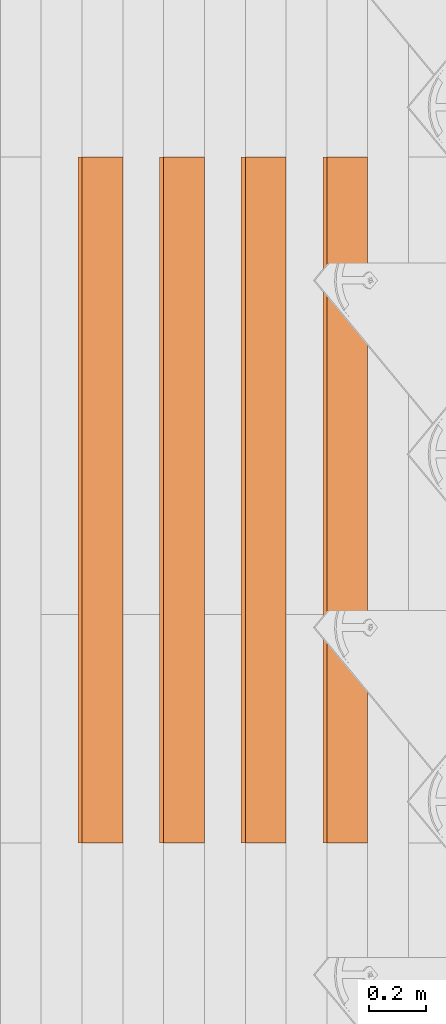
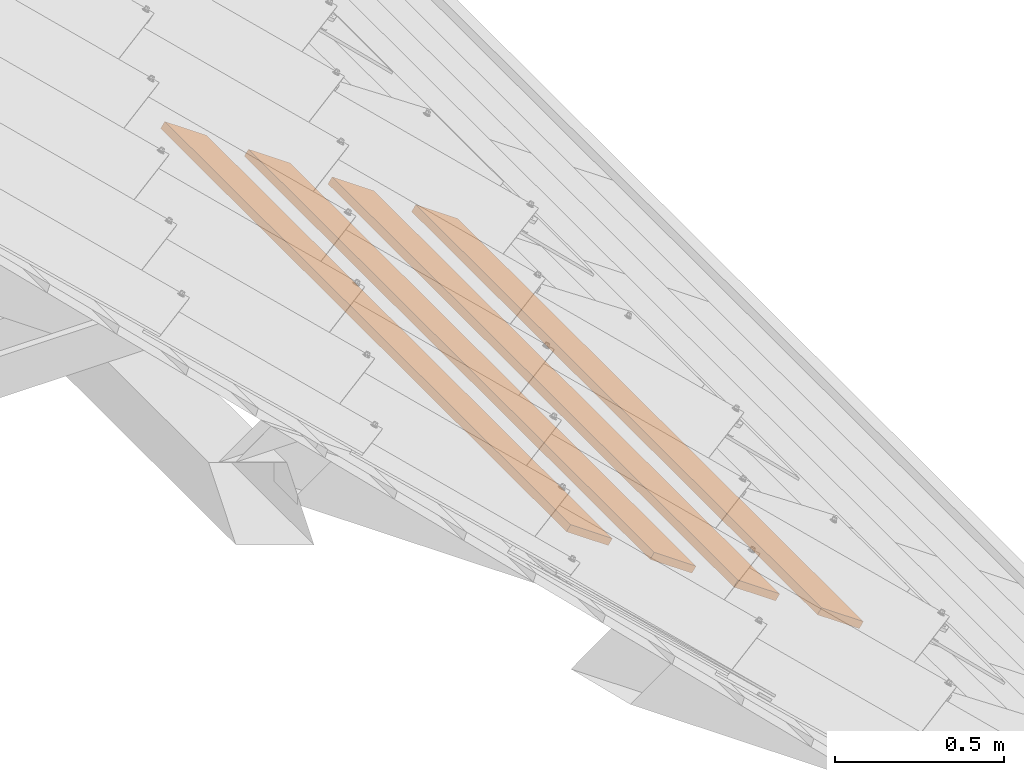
# One storey, part 60 of 133: 4 proxies, 1 element without a shape of its own.
"""IFC2X3 building model written with IfcOpenShell, lengths in millimetres."""

import ifcopenshell
import ifcopenshell.guid

model = None  # the IFC model being written
_history = None  # IfcOwnerHistory: only IFC2X3 demands one
_inside = {}  # id of a spatial element -> (the spatial element, [elements in it])
_under = {}  # id of a project, library or spatial element -> (it, [spatial elements below it])
_declared = {}  # id of a project -> (the project, [libraries it declares])
_typed = {}  # id of a type object -> (the type object, [elements of that type])
_made_of = {}  # id of a material, layer set ... -> (it, [elements and type objects made of it])


def new_model(schema):
    """Start an empty IFC model of exactly this schema.

    Asked for "IFC4X3", IfcOpenShell would pick the latest addendum, in which some entities
    have other attributes; the version numbers below select the first issue.
    IFC2X3 requires an IfcOwnerHistory on every rooted entity: one is made here for all.
    """
    global model, _history
    if schema == "IFC4X3":
        model = ifcopenshell.file(schema_version=(4, 3, 0, 0))
    else:
        model = ifcopenshell.file(schema=schema)
    _inside.clear()
    _under.clear()
    _declared.clear()
    _typed.clear()
    _made_of.clear()
    _history = None
    if model.schema == "IFC2X3":
        org = make("IfcOrganization", Name="unknown")
        user = make(
            "IfcPersonAndOrganization",
            ThePerson=make("IfcPerson", FamilyName="unknown"),
            TheOrganization=org,
        )
        app = make(
            "IfcApplication",
            ApplicationDeveloper=org,
            Version="unknown",
            ApplicationFullName="unknown",
            ApplicationIdentifier="unknown",
        )
        _history = make(
            "IfcOwnerHistory",
            OwningUser=user,
            OwningApplication=app,
            ChangeAction="ADDED",
            CreationDate=0,
        )
    return model


def make(cls, **values):
    """One entity of the class cls with the attributes given. An attribute that is None is left unset."""
    return model.create_entity(
        cls, **{name: value for name, value in values.items() if value is not None}
    )


def entity(cls, *values):
    """Any entity or typed value of the class cls, its attributes in the order of the schema. None: left unset."""
    e = model.create_entity(cls)
    for i, value in enumerate(values):
        if value is not None:
            e[i] = value
    return e


def rooted(cls, **values):
    """An entity with a GlobalId (a new one), such as an element, a storey or a relation."""
    return make(cls, GlobalId=ifcopenshell.guid.new(), OwnerHistory=_history, **values)


def si_unit(unit_type, name, prefix=None):
    """IfcSIUnit, for example si_unit("LENGTHUNIT", "METRE", prefix="MILLI")."""
    return make("IfcSIUnit", UnitType=unit_type, Prefix=prefix, Name=name)


def converted_unit(unit_type, name, factor, base, dimensions=None, offset=None):
    """IfcConversionBasedUnit, such as the inch: factor (a typed value) times the base unit."""
    return make(
        "IfcConversionBasedUnit"
        if offset is None
        else "IfcConversionBasedUnitWithOffset",
        ConversionOffset=offset,
        Dimensions=None
        if dimensions is None
        else entity("IfcDimensionalExponents", *dimensions),
        UnitType=unit_type,
        Name=name,
        ConversionFactor=make(
            "IfcMeasureWithUnit", ValueComponent=factor, UnitComponent=base
        ),
    )


def derived_unit(unit_type, elements):
    """IfcDerivedUnit: a product of units, each with its exponent."""
    return make(
        "IfcDerivedUnit",
        Elements=[
            make("IfcDerivedUnitElement", Unit=unit, Exponent=power)
            for unit, power in elements
        ],
        UnitType=unit_type,
    )


def assignment(units):
    """IfcUnitAssignment: the units of a project."""
    return None if units is None else make("IfcUnitAssignment", Units=units)


def point(xyz):
    """IfcCartesianPoint."""
    return None if xyz is None else make("IfcCartesianPoint", Coordinates=xyz)


def direction(xyz):
    """IfcDirection."""
    return None if xyz is None else make("IfcDirection", DirectionRatios=xyz)


def frame(location, z_axis=None, x_axis=None):
    """IfcAxis2Placement3D, a coordinate frame: its origin and axes. An axis left out is left unset."""
    return make(
        "IfcAxis2Placement3D",
        Location=point(location),
        Axis=direction(z_axis),
        RefDirection=direction(x_axis),
    )


def frame_2d(location, x_axis=None):
    """IfcAxis2Placement2D, a coordinate frame in the plane: its origin and x axis."""
    return make(
        "IfcAxis2Placement2D", Location=point(location), RefDirection=direction(x_axis)
    )


def origin():
    """The frame at (0, 0, 0) with its axes left unset."""
    return frame((0.0, 0.0, 0.0))


def place(relative_to, where):
    """IfcLocalPlacement: puts the frame where relative to a parent placement (None: the world)."""
    return make(
        "IfcLocalPlacement", PlacementRelTo=relative_to, RelativePlacement=where
    )


def context(
    kind, dimensions, precision=None, world=None, true_north=None, identifier=None
):
    """IfcGeometricRepresentationContext, for example the 3D "Model" context."""
    return make(
        "IfcGeometricRepresentationContext",
        ContextIdentifier=identifier,
        ContextType=kind,
        CoordinateSpaceDimension=dimensions,
        Precision=precision,
        WorldCoordinateSystem=world,
        TrueNorth=true_north,
    )


def subcontext(parent, identifier, kind, view, scale=None):
    """IfcGeometricRepresentationSubContext, for example "Body" below "Model"."""
    return make(
        "IfcGeometricRepresentationSubContext",
        ContextIdentifier=identifier,
        ContextType=kind,
        ParentContext=parent,
        TargetScale=scale,
        TargetView=view,
    )


def project(units=None, contexts=None):
    """IfcProject with its units and contexts."""
    return rooted(
        "IfcProject",
        Name="project",
        RepresentationContexts=contexts,
        UnitsInContext=assignment(units),
    )


def spatial(cls, under=None, at=None, **own):
    """A site, building, storey or space (cls), placed at a placement, below another one or the project."""
    s = rooted(cls, ObjectPlacement=at, **own)
    if under is not None:
        _under.setdefault(under.id(), (under, []))[1].append(s)
    return s


def profile(cls, at=None, kind="AREA", **sizes):
    """A parametric profile (cls). Its sizes go by their IFC names, for example OverallWidth=200.0."""
    return make(cls, ProfileType=kind, Position=at, **sizes)


def rectangle(**sizes):
    """IfcRectangleProfileDef."""
    return profile("IfcRectangleProfileDef", **sizes)


def extrude(swept, where, along, depth):
    """IfcExtrudedAreaSolid: the profile swept, set in the frame where, extruded along a direction by depth."""
    return make(
        "IfcExtrudedAreaSolid",
        SweptArea=swept,
        Position=where,
        ExtrudedDirection=direction(along),
        Depth=depth,
    )


def shape(context_of_items, identifier, shape_type, items):
    """IfcShapeRepresentation: the items that make up one representation, for example the "Body"."""
    return make(
        "IfcShapeRepresentation",
        ContextOfItems=context_of_items,
        RepresentationIdentifier=identifier,
        RepresentationType=shape_type,
        Items=items,
    )


def source(mapping_origin, context_of_items, identifier, shape_type, items):
    """IfcRepresentationMap: a shape defined once, which mapped items show again and again."""
    return make(
        "IfcRepresentationMap",
        MappingOrigin=mapping_origin,
        MappedRepresentation=shape(context_of_items, identifier, shape_type, items),
    )


def transform(
    local_origin,
    x_axis=None,
    y_axis=None,
    z_axis=None,
    scale=None,
    scale2=None,
    scale3=None,
    uniform=True,
):
    """IfcCartesianTransformationOperator3D, or its non-uniform kind. x_axis, y_axis, z_axis: its Axis1, 2, 3."""
    if uniform:
        return make(
            "IfcCartesianTransformationOperator3D",
            Axis1=direction(x_axis),
            Axis2=direction(y_axis),
            LocalOrigin=point(local_origin),
            Scale=scale,
            Axis3=direction(z_axis),
        )
    return make(
        "IfcCartesianTransformationOperator3DnonUniform",
        Axis1=direction(x_axis),
        Axis2=direction(y_axis),
        LocalOrigin=point(local_origin),
        Scale=scale,
        Axis3=direction(z_axis),
        Scale2=scale2,
        Scale3=scale3,
    )


def mapped(mapping_source, mapping_target):
    """IfcMappedItem: shows the shape of a source again, moved by a transform."""
    return make(
        "IfcMappedItem", MappingSource=mapping_source, MappingTarget=mapping_target
    )


def material(Name=None, Category=None):
    """IfcMaterial."""
    return make("IfcMaterial", Name=Name, Category=Category)


def made_of(thing, what):
    """Note that an element or type object is made of a material, layer set ...; save() writes the relation."""
    if what is not None:
        _made_of.setdefault(what.id(), (what, []))[1].append(thing)
    return thing


def type_object(cls, material=None, **own):
    """A type object (cls), such as IfcWallType, which elements share."""
    return made_of(rooted(cls, **own), material)


def type_shapes(of_type, sources):
    """Give a type object the sources (RepresentationMaps) that its elements show as mapped items."""
    of_type.RepresentationMaps = sources


def element(
    cls,
    number,
    at=None,
    inside=None,
    cuts=None,
    type_object=None,
    material=None,
    context=None,
    identifier="Body",
    shape_type=None,
    held_by="IfcProductDefinitionShape",
    body=None,
    shapes=None,
    **own,
):
    """One element of the class cls, such as IfcWall. Its Tag is "e" and its number.

    at: its placement. inside: the storey or other place that contains it. cuts: it is an
    opening in that element (IfcRelVoidsElement). A single representation is given by context,
    identifier, shape_type and body (its items); several are given by shapes. held_by: the class
    of the entity that holds the representations. save() writes the other relations.
    """
    e = rooted(cls, Tag="e%d" % number, ObjectPlacement=at, **own)
    if body is not None:
        shapes = [shape(context, identifier, shape_type, body)]
    if shapes is not None:
        e.Representation = make(held_by, Representations=shapes)
    if inside is not None:
        _inside.setdefault(inside.id(), (inside, []))[1].append(e)
    if cuts is not None:
        rooted(
            "IfcRelVoidsElement", RelatingBuildingElement=cuts, RelatedOpeningElement=e
        )
    if type_object is not None:
        _typed.setdefault(type_object.id(), (type_object, []))[1].append(e)
    return made_of(e, material)


def aggregate(whole, parts):
    """IfcRelAggregates: a whole, such as a stair, and the parts it consists of."""
    return rooted("IfcRelAggregates", RelatingObject=whole, RelatedObjects=parts)


def save(model, path):
    """Write the relations noted so far, then the file.

    IfcRelAggregates (storeys below a building ...), IfcRelContainedInSpatialStructure (elements
    in a storey), IfcRelDefinesByType, IfcRelAssociatesMaterial and IfcRelDeclares: one each for
    every whole, place, type object, material and project.
    """
    for whole, parts in _under.values():
        aggregate(whole, parts)
    for where, things in _inside.values():
        rooted(
            "IfcRelContainedInSpatialStructure",
            RelatedElements=things,
            RelatingStructure=where,
        )
    for kind, things in _typed.values():
        rooted("IfcRelDefinesByType", RelatedObjects=things, RelatingType=kind)
    for what, things in _made_of.values():
        rooted("IfcRelAssociatesMaterial", RelatedObjects=things, RelatingMaterial=what)
    for by, libraries in _declared.values():
        rooted("IfcRelDeclares", RelatingContext=by, RelatedDefinitions=libraries)
    model.write(path)


model = new_model("IFC2X3")

# Units and contexts
model_context = context("Model", 3, precision=0.01, world=origin(), true_north=direction((6.12303176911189e-17, 1.0)))
body_context = subcontext(model_context, "Body", "Model", "MODEL_VIEW")
ifc_project = project(units=[si_unit("LENGTHUNIT", "METRE", prefix="MILLI"), si_unit("AREAUNIT", "SQUARE_METRE"), si_unit("VOLUMEUNIT", "CUBIC_METRE"), converted_unit("PLANEANGLEUNIT", "DEGREE", entity("IfcRatioMeasure", 0.0174532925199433), si_unit("PLANEANGLEUNIT", "RADIAN"), dimensions=[0, 0, 0, 0, 0, 0, 0]), si_unit("MASSUNIT", "GRAM", prefix="KILO"), derived_unit("MASSDENSITYUNIT", [(si_unit("MASSUNIT", "GRAM", prefix="KILO"), 1), (si_unit("LENGTHUNIT", "METRE"), -3)]), si_unit("TIMEUNIT", "SECOND"), si_unit("FREQUENCYUNIT", "HERTZ"), si_unit("THERMODYNAMICTEMPERATUREUNIT", "DEGREE_CELSIUS"), derived_unit("THERMALTRANSMITTANCEUNIT", [(si_unit("MASSUNIT", "GRAM", prefix="KILO"), 1), (si_unit("THERMODYNAMICTEMPERATUREUNIT", "KELVIN"), -1), (si_unit("TIMEUNIT", "SECOND"), -3)]), derived_unit("VOLUMETRICFLOWRATEUNIT", [(si_unit("LENGTHUNIT", "METRE"), 3), (si_unit("TIMEUNIT", "SECOND"), -1)]), si_unit("ELECTRICCURRENTUNIT", "AMPERE"), si_unit("ELECTRICVOLTAGEUNIT", "VOLT"), si_unit("POWERUNIT", "WATT"), si_unit("FORCEUNIT", "NEWTON", prefix="KILO"), si_unit("ILLUMINANCEUNIT", "LUX"), si_unit("LUMINOUSFLUXUNIT", "LUMEN"), si_unit("LUMINOUSINTENSITYUNIT", "CANDELA"), derived_unit("USERDEFINED", [(si_unit("MASSUNIT", "GRAM", prefix="KILO"), -1), (si_unit("LENGTHUNIT", "METRE"), -2), (si_unit("TIMEUNIT", "SECOND"), 3), (si_unit("LUMINOUSFLUXUNIT", "LUMEN"), 1)]), derived_unit("LINEARVELOCITYUNIT", [(si_unit("LENGTHUNIT", "METRE"), 1), (si_unit("TIMEUNIT", "SECOND"), -1)]), si_unit("PRESSUREUNIT", "PASCAL"), derived_unit("USERDEFINED", [(si_unit("LENGTHUNIT", "METRE"), -2), (si_unit("MASSUNIT", "GRAM", prefix="KILO"), 1), (si_unit("TIMEUNIT", "SECOND"), -2)])], contexts=[model_context])

# Site, building, storey
site_placement = place(None, origin())
site = spatial("IfcSite", under=ifc_project, at=site_placement, Name="Default", CompositionType="ELEMENT")
building_placement = place(site_placement, origin())
building = spatial("IfcBuilding", under=site, at=building_placement, CompositionType="ELEMENT")
storey_placement = place(building_placement, origin())
storey = spatial("IfcBuildingStorey", under=building, at=storey_placement, Name="Level 1", CompositionType="ELEMENT", Elevation=0.0)

# Assembly, proxies
assembly_placement = place(storey_placement, origin())
assembly = element("IfcElementAssembly", 1, at=assembly_placement, inside=storey, Name="Structural Framing Assembly:Roof Construction Assembly", ObjectType="Structural Framing Assembly:Roof Construction Assembly", AssemblyPlace="NOTDEFINED", PredefinedType="USERDEFINED")
ifc_material = material(Name="Wood - Generic - Wood For Showcase")
building_element_proxy_type_1 = type_object("IfcBuildingElementProxyType", Name="Structural Framing 15", PredefinedType="NOTDEFINED", material=ifc_material)
shared_shape_1 = source(origin(), body_context, "Body", "SweptSolid", [
    extrude(rectangle(XDim=24.9999999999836, YDim=174.344679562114, at=frame_2d((2.22044604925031e-13, -1.63424829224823e-13), x_axis=(1.0, 0.0))), frame((1285.35601305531, 1595.55080214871, 2760.23940055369), z_axis=(0.0, 1.0, 0.0), x_axis=(0.573576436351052, 0.0, 0.819152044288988)), (0.0, 0.0, 1.0), 2400.0),
])
type_shapes(building_element_proxy_type_1, [shared_shape_1])
proxy_1_placement = place(assembly_placement, frame((1856.59240876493, -3340.0, -1300.0)))
proxy_1 = element("IfcBuildingElementProxy", 2, at=proxy_1_placement, type_object=building_element_proxy_type_1, material=ifc_material, Name="Structural Framing 221:Structural Framing 15", ObjectType="Structural Framing 221:Structural Framing 15", context=body_context, shape_type="MappedRepresentation", body=[
    mapped(shared_shape_1, transform((0.0, 0.0, 0.0), scale=1.0)),
])
building_element_proxy_type_2 = type_object("IfcBuildingElementProxyType", Name="Structural Framing 15", PredefinedType="NOTDEFINED", material=ifc_material)
shared_shape_2 = source(origin(), body_context, "Body", "SweptSolid", [
    extrude(rectangle(XDim=24.9999999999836, YDim=174.344679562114, at=frame_2d((2.22044604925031e-13, -1.63424829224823e-13), x_axis=(1.0, 0.0))), frame((1285.35601305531, 1595.55080214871, 2760.23940055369), z_axis=(0.0, 1.0, 0.0), x_axis=(0.573576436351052, 0.0, 0.819152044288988)), (0.0, 0.0, 1.0), 2400.0),
])
type_shapes(building_element_proxy_type_2, [shared_shape_2])
proxy_2_placement = place(assembly_placement, frame((2142.22201011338, -3340.0, -1500.0)))
proxy_2 = element("IfcBuildingElementProxy", 3, at=proxy_2_placement, type_object=building_element_proxy_type_2, material=ifc_material, Name="Structural Framing 231:Structural Framing 15", ObjectType="Structural Framing 231:Structural Framing 15", context=body_context, shape_type="MappedRepresentation", body=[
    mapped(shared_shape_2, transform((0.0, 0.0, 0.0), scale=1.0)),
])
building_element_proxy_type_3 = type_object("IfcBuildingElementProxyType", Name="Structural Framing 15", PredefinedType="NOTDEFINED", material=ifc_material)
shared_shape_3 = source(origin(), body_context, "Body", "SweptSolid", [
    extrude(rectangle(XDim=24.9999999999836, YDim=174.344679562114, at=frame_2d((2.22044604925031e-13, -1.63424829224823e-13), x_axis=(1.0, 0.0))), frame((1285.35601305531, 1595.55080214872, 2760.23940055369), z_axis=(0.0, 1.0, 0.0), x_axis=(0.573576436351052, 0.0, 0.819152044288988)), (0.0, 0.0, 1.0), 2400.0),
])
type_shapes(building_element_proxy_type_3, [shared_shape_3])
proxy_3_placement = place(assembly_placement, frame((2427.85161146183, -3340.0, -1700.0)))
proxy_3 = element("IfcBuildingElementProxy", 4, at=proxy_3_placement, type_object=building_element_proxy_type_3, material=ifc_material, Name="Structural Framing 241:Structural Framing 15", ObjectType="Structural Framing 241:Structural Framing 15", context=body_context, shape_type="MappedRepresentation", body=[
    mapped(shared_shape_3, transform((0.0, 0.0, 0.0), scale=1.0)),
])
building_element_proxy_type_4 = type_object("IfcBuildingElementProxyType", Name="Structural Framing 15", PredefinedType="NOTDEFINED", material=ifc_material)
shared_shape_4 = source(origin(), body_context, "Body", "SweptSolid", [
    extrude(rectangle(XDim=24.9999999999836, YDim=174.344679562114, at=frame_2d((2.22044604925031e-13, -1.63424829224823e-13), x_axis=(1.0, 0.0))), frame((1285.35601305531, 1595.55080214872, 2760.23940055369), z_axis=(0.0, 1.0, 0.0), x_axis=(0.573576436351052, 0.0, 0.819152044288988)), (0.0, 0.0, 1.0), 2400.0),
])
type_shapes(building_element_proxy_type_4, [shared_shape_4])
proxy_4_placement = place(assembly_placement, frame((2713.48121281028, -3340.0, -1900.0)))
proxy_4 = element("IfcBuildingElementProxy", 5, at=proxy_4_placement, type_object=building_element_proxy_type_4, material=ifc_material, Name="Structural Framing 251:Structural Framing 15", ObjectType="Structural Framing 251:Structural Framing 15", context=body_context, shape_type="MappedRepresentation", body=[
    mapped(shared_shape_4, transform((0.0, 0.0, 0.0), scale=1.0)),
])
aggregate(assembly, [proxy_1, proxy_2, proxy_3, proxy_4])

save(model, "model.ifc")
